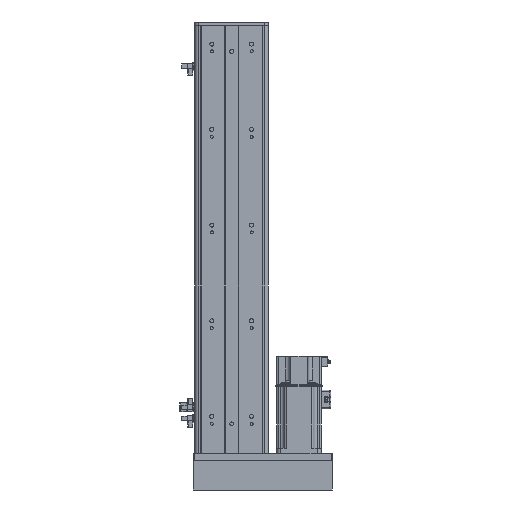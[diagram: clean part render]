
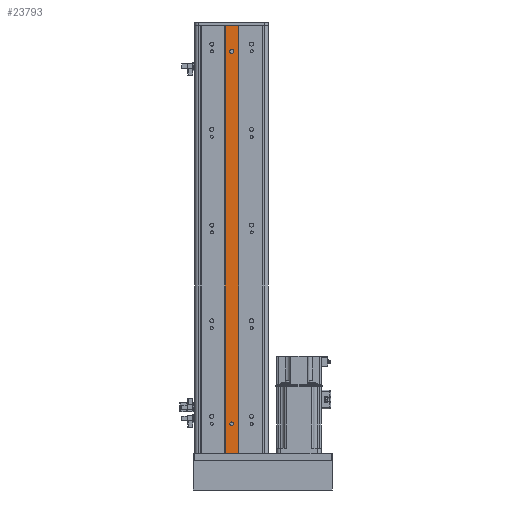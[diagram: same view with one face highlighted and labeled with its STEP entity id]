
A CAD part, front view. The second image highlights one B-rep face of the part: STEP entity #23793.
In plain terms, the highlighted planar face has unit normal (0, -1, 0).
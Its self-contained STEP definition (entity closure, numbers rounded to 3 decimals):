
#1906 = AXIS2_PLACEMENT_3D ( 'NONE', #57536, #4259, #41137 ) ;
#4259 = DIRECTION ( 'NONE',  ( 0., 1., 0. ) ) ;
#4484 = VECTOR ( 'NONE', #66239, 1000. ) ;
#4542 = CARTESIAN_POINT ( 'NONE',  ( 0., 1.309, 711. ) ) ;
#4907 = DIRECTION ( 'NONE',  ( 1., 0., 0. ) ) ;
#5441 = DIRECTION ( 'NONE',  ( 0., 0., 1. ) ) ;
#5708 = VECTOR ( 'NONE', #20276, 1000. ) ;
#6389 = AXIS2_PLACEMENT_3D ( 'NONE', #8188, #45303, #13516 ) ;
#6880 = ORIENTED_EDGE ( 'NONE', *, *, #30960, .T. ) ;
#7359 = VECTOR ( 'NONE', #35066, 1000. ) ;
#7821 = DIRECTION ( 'NONE',  ( 0., 0., 1. ) ) ;
#8109 = DIRECTION ( 'NONE',  ( 0., 0., 1. ) ) ;
#8188 = CARTESIAN_POINT ( 'NONE',  ( 0., 1.309, 676.5 ) ) ;
#9270 = FACE_BOUND ( 'NONE', #25545, .T. ) ;
#9475 = VERTEX_POINT ( 'NONE', #14930 ) ;
#10172 = CIRCLE ( 'NONE', #6389, 2.5 ) ;
#10768 = VERTEX_POINT ( 'NONE', #21366 ) ;
#13516 = DIRECTION ( 'NONE',  ( 0., 0., 1. ) ) ;
#14046 = EDGE_CURVE ( 'NONE', #10768, #35055, #10172, .T. ) ;
#14071 = CARTESIAN_POINT ( 'NONE',  ( -9., 1.309, 130. ) ) ;
#14155 = EDGE_CURVE ( 'NONE', #20403, #29878, #61537, .T. ) ;
#14930 = CARTESIAN_POINT ( 'NONE',  ( -2.5, 1.309, 675.5 ) ) ;
#15212 = EDGE_CURVE ( 'NONE', #35055, #21514, #28093, .T. ) ;
#16553 = LINE ( 'NONE', #56077, #7359 ) ;
#16714 = EDGE_LOOP ( 'NONE', ( #28514, #47393, #17352, #6880 ) ) ;
#17352 = ORIENTED_EDGE ( 'NONE', *, *, #21426, .F. ) ;
#20058 = CARTESIAN_POINT ( 'NONE',  ( 2.5, 1.309, 711. ) ) ;
#20260 = AXIS2_PLACEMENT_3D ( 'NONE', #34140, #55626, #8109 ) ;
#20276 = DIRECTION ( 'NONE',  ( 0., 0., -1. ) ) ;
#20283 = DIRECTION ( 'NONE',  ( 0., 0., -1. ) ) ;
#20403 = VERTEX_POINT ( 'NONE', #41243 ) ;
#21366 = CARTESIAN_POINT ( 'NONE',  ( -2.5, 1.309, 676.5 ) ) ;
#21374 = AXIS2_PLACEMENT_3D ( 'NONE', #28989, #65949, #7821 ) ;
#21426 = EDGE_CURVE ( 'NONE', #23954, #23895, #22113, .T. ) ;
#21514 = VERTEX_POINT ( 'NONE', #22489 ) ;
#22113 = LINE ( 'NONE', #26033, #28807 ) ;
#22361 = EDGE_LOOP ( 'NONE', ( #25568, #31644 ) ) ;
#22489 = CARTESIAN_POINT ( 'NONE',  ( 2.5, 1.309, 675.5 ) ) ;
#23793 = ADVANCED_FACE ( 'NONE', ( #9270, #39929, #33314 ), #68680, .F. ) ;
#23895 = VERTEX_POINT ( 'NONE', #38371 ) ;
#23954 = VERTEX_POINT ( 'NONE', #43002 ) ;
#25093 = CARTESIAN_POINT ( 'NONE',  ( -2.5, 1.309, 711. ) ) ;
#25545 = EDGE_LOOP ( 'NONE', ( #65986, #67512, #31691, #47142 ) ) ;
#25568 = ORIENTED_EDGE ( 'NONE', *, *, #31591, .T. ) ;
#26033 = CARTESIAN_POINT ( 'NONE',  ( -9., 1.309, 711. ) ) ;
#28093 = LINE ( 'NONE', #20058, #5708 ) ;
#28514 = ORIENTED_EDGE ( 'NONE', *, *, #53046, .F. ) ;
#28807 = VECTOR ( 'NONE', #4907, 1000. ) ;
#28989 = CARTESIAN_POINT ( 'NONE',  ( 0., 1.309, 675.5 ) ) ;
#29878 = VERTEX_POINT ( 'NONE', #57600 ) ;
#30950 = AXIS2_PLACEMENT_3D ( 'NONE', #4542, #36574, #5441 ) ;
#30960 = EDGE_CURVE ( 'NONE', #23954, #68089, #16553, .T. ) ;
#31591 = EDGE_CURVE ( 'NONE', #29878, #20403, #43357, .T. ) ;
#31644 = ORIENTED_EDGE ( 'NONE', *, *, #14155, .T. ) ;
#31691 = ORIENTED_EDGE ( 'NONE', *, *, #15212, .T. ) ;
#31895 = LINE ( 'NONE', #54963, #4484 ) ;
#33314 = FACE_OUTER_BOUND ( 'NONE', #16714, .T. ) ;
#34140 = CARTESIAN_POINT ( 'NONE',  ( 0., 1.309, 170. ) ) ;
#34302 = EDGE_CURVE ( 'NONE', #23895, #47540, #40579, .T. ) ;
#35055 = VERTEX_POINT ( 'NONE', #58279 ) ;
#35066 = DIRECTION ( 'NONE',  ( 0., 0., -1. ) ) ;
#36574 = DIRECTION ( 'NONE',  ( 0., 1., 0. ) ) ;
#36588 = CARTESIAN_POINT ( 'NONE',  ( 9., 1.309, 711. ) ) ;
#37207 = CIRCLE ( 'NONE', #21374, 2.5 ) ;
#38371 = CARTESIAN_POINT ( 'NONE',  ( 9., 1.309, 711. ) ) ;
#38701 = VECTOR ( 'NONE', #61889, 1000. ) ;
#39929 = FACE_BOUND ( 'NONE', #22361, .T. ) ;
#40579 = LINE ( 'NONE', #36588, #48043 ) ;
#41137 = DIRECTION ( 'NONE',  ( 0., 0., 1. ) ) ;
#41243 = CARTESIAN_POINT ( 'NONE',  ( -2.5, 1.309, 170. ) ) ;
#43002 = CARTESIAN_POINT ( 'NONE',  ( -9., 1.309, 711. ) ) ;
#43357 = CIRCLE ( 'NONE', #20260, 2.5 ) ;
#45150 = EDGE_CURVE ( 'NONE', #21514, #9475, #37207, .T. ) ;
#45303 = DIRECTION ( 'NONE',  ( 0., 1., 0. ) ) ;
#47142 = ORIENTED_EDGE ( 'NONE', *, *, #45150, .T. ) ;
#47393 = ORIENTED_EDGE ( 'NONE', *, *, #34302, .F. ) ;
#47540 = VERTEX_POINT ( 'NONE', #57653 ) ;
#48043 = VECTOR ( 'NONE', #20283, 1000. ) ;
#48772 = LINE ( 'NONE', #25093, #38701 ) ;
#53046 = EDGE_CURVE ( 'NONE', #47540, #68089, #31895, .T. ) ;
#54963 = CARTESIAN_POINT ( 'NONE',  ( 0., 1.309, 130. ) ) ;
#55626 = DIRECTION ( 'NONE',  ( 0., 1., 0. ) ) ;
#56077 = CARTESIAN_POINT ( 'NONE',  ( -9., 1.309, 711. ) ) ;
#57536 = CARTESIAN_POINT ( 'NONE',  ( 0., 1.309, 170. ) ) ;
#57600 = CARTESIAN_POINT ( 'NONE',  ( 2.5, 1.309, 170. ) ) ;
#57653 = CARTESIAN_POINT ( 'NONE',  ( 9., 1.309, 130. ) ) ;
#58279 = CARTESIAN_POINT ( 'NONE',  ( 2.5, 1.309, 676.5 ) ) ;
#61537 = CIRCLE ( 'NONE', #1906, 2.5 ) ;
#61542 = EDGE_CURVE ( 'NONE', #9475, #10768, #48772, .T. ) ;
#61889 = DIRECTION ( 'NONE',  ( 0., 0., 1. ) ) ;
#65949 = DIRECTION ( 'NONE',  ( 0., 1., 0. ) ) ;
#65986 = ORIENTED_EDGE ( 'NONE', *, *, #61542, .T. ) ;
#66239 = DIRECTION ( 'NONE',  ( -1., 0., 0. ) ) ;
#67512 = ORIENTED_EDGE ( 'NONE', *, *, #14046, .T. ) ;
#68089 = VERTEX_POINT ( 'NONE', #14071 ) ;
#68680 = PLANE ( 'NONE',  #30950 ) ;
